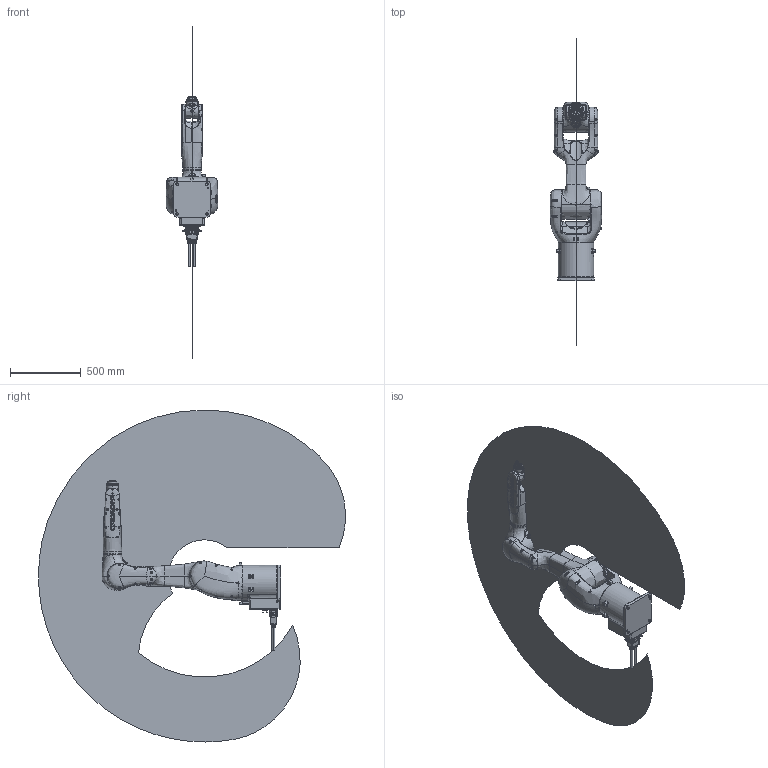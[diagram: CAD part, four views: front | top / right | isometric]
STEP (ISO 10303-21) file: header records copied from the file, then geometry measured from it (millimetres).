
FILE_DESCRIPTION (( 'STEP AP214' ), '1' );
FILE_NAME ('RA12-10 六轴低负载高防护机器人-简化模型 2023.8.22.STEP', '2024-03-18T03:15:04', ( '' ), ( '' ), 'SwSTEP 2.0', 'SolidWorks 2021', '' );
FILE_SCHEMA (( 'AUTOMOTIVE_DESIGN' ));
Length unit declared in the file: millimetre
Products named in the file (9): RA12100001; RA12100005; RA12-10 六轴低负载高防护机器人-简化模型 2023.8.22; RA12100006; RA12100004; RA12100008; RA12100007; RA12100002; RA12100003
Assembly tree (8 placements, depth 2):
  RA12-10 六轴低负载高防护机器人-简化模型 2023.8.22
    RA12100001
    RA12100002
    RA12100003
    RA12100004
    RA12100005
    RA12100006
    RA12100007
    RA12100008
Bounding box: 365 x 2168.58 x 2344.35 mm (x, y, z)
Volume: 65291248.9 mm3; surface area: 5288223.9 mm2
Topology: 37 solids, 69 shells, 6247 faces, 15111 edges, 9076 vertices
Faces by surface type: cylinder 2105, bspline 1761, plane 1696, cone 443, torus 231, sphere 11
Entity records: 500231 total; most frequent: CARTESIAN_POINT 325985, ORIENTED_EDGE 29745, DIRECTION 24890, EDGE_CURVE 14875, AXIS2_PLACEMENT_3D 9843, VERTEX_POINT 9076, EDGE_LOOP 6660, FACE_OUTER_BOUND 6247
